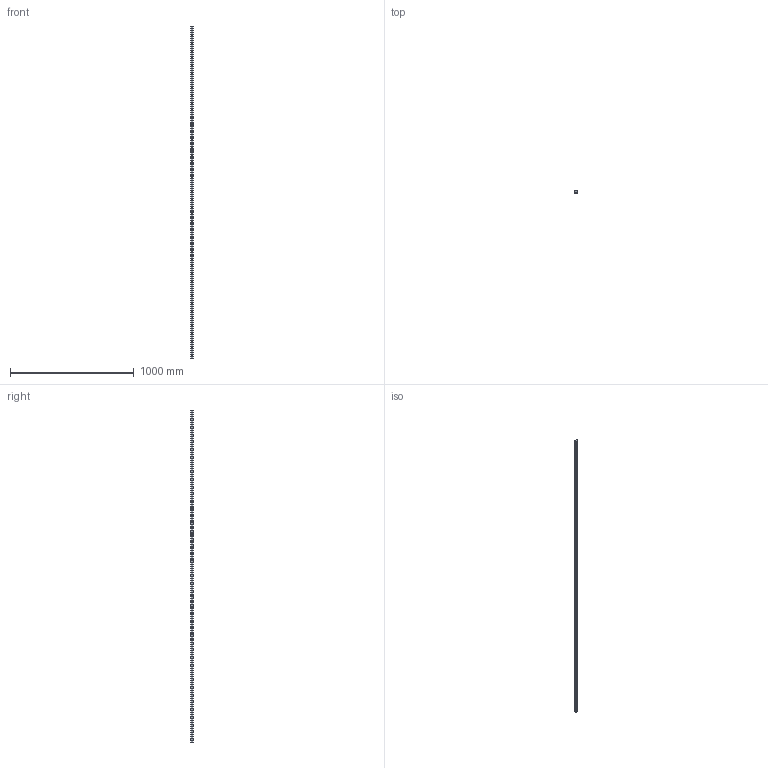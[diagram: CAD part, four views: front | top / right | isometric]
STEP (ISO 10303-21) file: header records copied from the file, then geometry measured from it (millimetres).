
FILE_DESCRIPTION (( 'STEP AP203' ), '1' );
FILE_NAME ('L1016.BRF25-2680.step', '2019-06-13T08:43:25', ( '' ), ( '' ), 'SwSTEP 2.0', 'SolidWorks 2017', '' );
FILE_SCHEMA (( 'CONFIG_CONTROL_DESIGN' ));
Length unit declared in the file: millimetre
Products named in the file (1): L1016.BRF25-2680
Bounding box: 23 x 19.2 x 2680 mm (x, y, z)
Volume: 1023222.5 mm3; surface area: 246705.5 mm2
Topology: 1 solids, 1 shells, 341 faces, 792 edges, 453 vertices
Faces by surface type: cylinder 184, cone 90, plane 67
Entity records: 9181 total; most frequent: DIRECTION 1754, CARTESIAN_POINT 1497, ORIENTED_EDGE 1404, AXIS2_PLACEMENT_3D 710, EDGE_CURVE 702, VERTEX_POINT 453, EDGE_LOOP 431, CIRCLE 368
